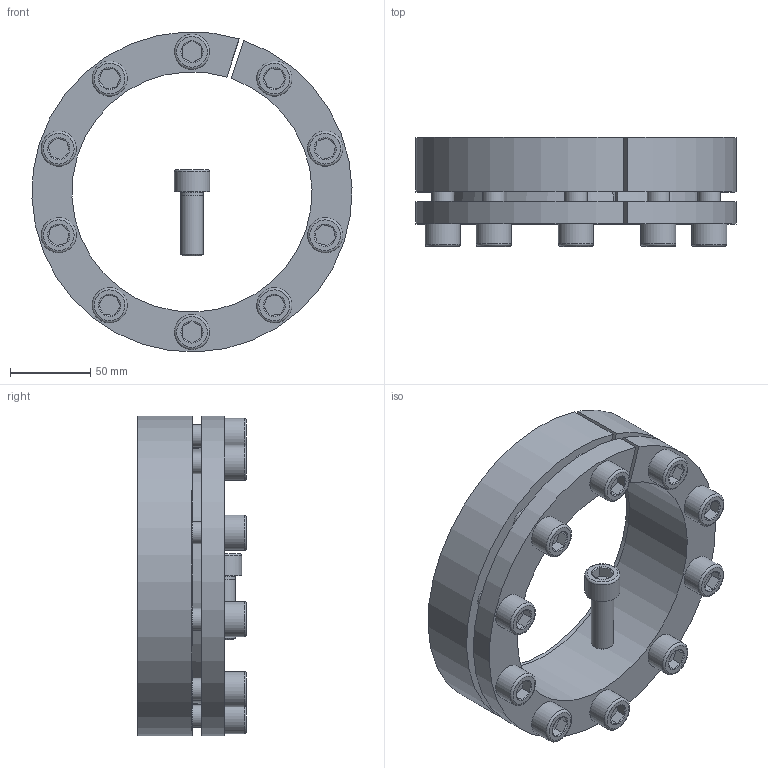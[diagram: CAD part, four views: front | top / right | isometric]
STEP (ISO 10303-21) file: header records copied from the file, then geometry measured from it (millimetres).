
FILE_DESCRIPTION( ( 'Unknown' ), '1' );
FILE_NAME( 'C:/Dokumente und Einstellungen/Sven/Desktop/homepage/cad - homepage/KBS13/KBS 13 - 150 x 200.stp', 'Unknown', ( 'Unknown' ), ( 'Unknown' ), 'XStep 1.0', 'Unknown', ' ' );
FILE_SCHEMA( ( 'automotive_design' ) );
Length unit declared in the file: millimetre
Products named in the file (3): Assem1; KBS 13 - 150 x 200; ISO EN DIN 4762 M14x40
Bounding box: 199.88 x 68 x 199.83 mm (x, y, z)
Volume: 1305688 mm3; surface area: 293666.9 mm2
Topology: 13 solids, 13 shells, 339 faces, 693 edges, 424 vertices
Faces by surface type: plane 146, cylinder 90, cone 81, torus 22
Full cylindrical faces by diameter (mm): 12 x11, 14 x62, 22 x11
Entity records: 1934 total; most frequent: CARTESIAN_POINT 327, DIRECTION 300, ORIENTED_EDGE 210, AXIS2_PLACEMENT_3D 136, EDGE_LOOP 128, EDGE_CURVE 105, FACE_OUTER_BOUND 83, VERTEX_POINT 83
